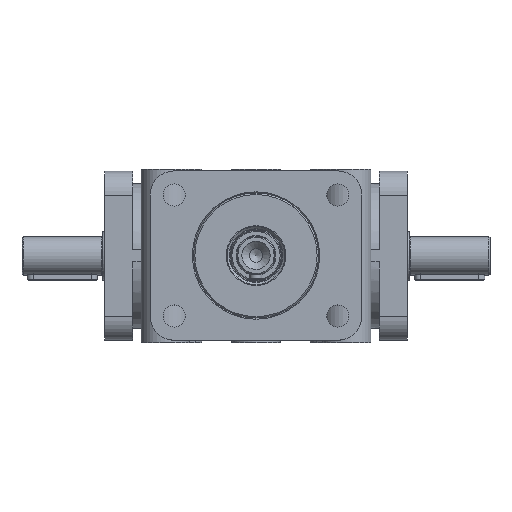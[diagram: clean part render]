
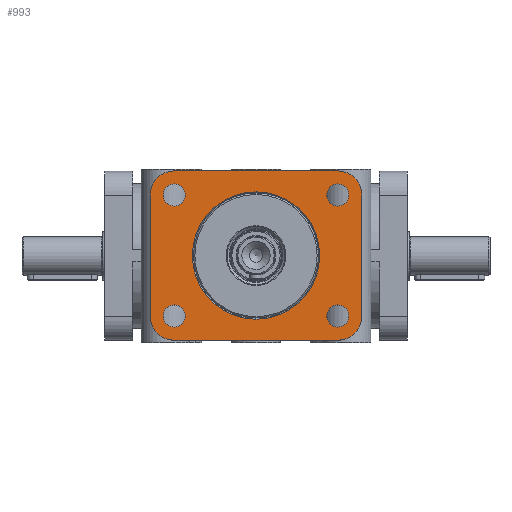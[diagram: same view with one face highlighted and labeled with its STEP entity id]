
A CAD part, top view. The second image highlights one B-rep face of the part: STEP entity #993.
In plain terms, the highlighted planar face has unit normal (0, 0, 1).
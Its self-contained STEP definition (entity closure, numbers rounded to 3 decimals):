
#750=CARTESIAN_POINT('',(46.0,30.0,0.0));
#751=VERTEX_POINT('',#750);
#752=CARTESIAN_POINT('',(40.5,30.0,0.0));
#753=DIRECTION('',(0.0,0.0,-1.0));
#754=DIRECTION('',(1.0,0.0,0.0));
#755=AXIS2_PLACEMENT_3D('',#752,#753,#754);
#756=CIRCLE('',#755,5.5);
#757=EDGE_CURVE('',#751,#751,#756,.T.);
#778=CARTESIAN_POINT('',(46.,-30.,0.0));
#779=VERTEX_POINT('',#778);
#780=CARTESIAN_POINT('',(40.5,-30.,0.0));
#781=DIRECTION('',(0.0,0.0,-1.0));
#782=DIRECTION('',(1.0,0.0,0.0));
#783=AXIS2_PLACEMENT_3D('',#780,#781,#782);
#784=CIRCLE('',#783,5.5);
#785=EDGE_CURVE('',#779,#779,#784,.T.);
#806=CARTESIAN_POINT('',(-35.0,-30.,0.0));
#807=VERTEX_POINT('',#806);
#808=CARTESIAN_POINT('',(-40.5,-30.,0.0));
#809=DIRECTION('',(0.0,0.0,-1.0));
#810=DIRECTION('',(1.0,0.0,0.0));
#811=AXIS2_PLACEMENT_3D('',#808,#809,#810);
#812=CIRCLE('',#811,5.5);
#813=EDGE_CURVE('',#807,#807,#812,.T.);
#834=CARTESIAN_POINT('',(-35.0,30.0,0.0));
#835=VERTEX_POINT('',#834);
#836=CARTESIAN_POINT('',(-40.5,30.0,0.0));
#837=DIRECTION('',(0.0,0.0,-1.0));
#838=DIRECTION('',(1.0,0.0,0.0));
#839=AXIS2_PLACEMENT_3D('',#836,#837,#838);
#840=CIRCLE('',#839,5.5);
#841=EDGE_CURVE('',#835,#835,#840,.T.);
#862=CARTESIAN_POINT('',(31.577,0.,0.0));
#863=VERTEX_POINT('',#862);
#864=CARTESIAN_POINT('',(0.0,0.0,0.0));
#865=DIRECTION('',(0.0,0.0,1.0));
#866=DIRECTION('',(-1.0,0.0,0.0));
#867=AXIS2_PLACEMENT_3D('',#864,#865,#866);
#868=CIRCLE('',#867,31.577);
#869=EDGE_CURVE('',#863,#863,#868,.T.);
#903=CARTESIAN_POINT('',(0.0,0.0,0.0));
#904=DIRECTION('',(0.0,0.0,1.0));
#905=DIRECTION('',(1.0,0.0,0.0));
#906=AXIS2_PLACEMENT_3D('',#903,#904,#905);
#907=PLANE('',#906);
#908=CARTESIAN_POINT('',(-52.5,30.0,0.0));
#909=VERTEX_POINT('',#908);
#910=CARTESIAN_POINT('',(-40.5,42.,0.0));
#911=VERTEX_POINT('',#910);
#912=CARTESIAN_POINT('',(-40.5,30.0,0.0));
#913=DIRECTION('',(0.0,0.0,-1.0));
#914=DIRECTION('',(-0.707,0.707,0.0));
#915=AXIS2_PLACEMENT_3D('',#912,#913,#914);
#916=CIRCLE('',#915,12.);
#917=EDGE_CURVE('',#909,#911,#916,.T.);
#918=ORIENTED_EDGE('',*,*,#917,.F.);
#919=CARTESIAN_POINT('',(-52.5,-30.,0.0));
#920=VERTEX_POINT('',#919);
#921=CARTESIAN_POINT('',(-52.5,-30.,0.0));
#922=DIRECTION('',(0.0,1.0,0.0));
#923=VECTOR('',#922,60.);
#924=LINE('',#921,#923);
#925=EDGE_CURVE('',#920,#909,#924,.T.);
#926=ORIENTED_EDGE('',*,*,#925,.F.);
#927=CARTESIAN_POINT('',(-40.5,-42.,0.0));
#928=VERTEX_POINT('',#927);
#929=CARTESIAN_POINT('',(-40.5,-30.,0.0));
#930=DIRECTION('',(0.0,0.0,-1.0));
#931=DIRECTION('',(-0.707,-0.707,0.0));
#932=AXIS2_PLACEMENT_3D('',#929,#930,#931);
#933=CIRCLE('',#932,12.);
#934=EDGE_CURVE('',#928,#920,#933,.T.);
#935=ORIENTED_EDGE('',*,*,#934,.F.);
#936=CARTESIAN_POINT('',(40.5,-42.,0.0));
#937=VERTEX_POINT('',#936);
#938=CARTESIAN_POINT('',(40.5,-42.,0.0));
#939=DIRECTION('',(-1.0,0.0,0.0));
#940=VECTOR('',#939,81.0);
#941=LINE('',#938,#940);
#942=EDGE_CURVE('',#937,#928,#941,.T.);
#943=ORIENTED_EDGE('',*,*,#942,.F.);
#944=CARTESIAN_POINT('',(52.5,-30.,0.0));
#945=VERTEX_POINT('',#944);
#946=CARTESIAN_POINT('',(40.5,-30.,0.0));
#947=DIRECTION('',(0.0,0.0,-1.0));
#948=DIRECTION('',(0.707,-0.707,0.0));
#949=AXIS2_PLACEMENT_3D('',#946,#947,#948);
#950=CIRCLE('',#949,12.0);
#951=EDGE_CURVE('',#945,#937,#950,.T.);
#952=ORIENTED_EDGE('',*,*,#951,.F.);
#953=CARTESIAN_POINT('',(52.5,30.0,0.0));
#954=VERTEX_POINT('',#953);
#955=CARTESIAN_POINT('',(52.5,30.,0.0));
#956=DIRECTION('',(0.0,-1.0,0.0));
#957=VECTOR('',#956,60.0);
#958=LINE('',#955,#957);
#959=EDGE_CURVE('',#954,#945,#958,.T.);
#960=ORIENTED_EDGE('',*,*,#959,.F.);
#961=CARTESIAN_POINT('',(40.5,42.,0.0));
#962=VERTEX_POINT('',#961);
#963=CARTESIAN_POINT('',(40.5,30.0,0.0));
#964=DIRECTION('',(0.0,0.0,-1.0));
#965=DIRECTION('',(0.707,0.707,0.0));
#966=AXIS2_PLACEMENT_3D('',#963,#964,#965);
#967=CIRCLE('',#966,12.);
#968=EDGE_CURVE('',#962,#954,#967,.T.);
#969=ORIENTED_EDGE('',*,*,#968,.F.);
#970=CARTESIAN_POINT('',(-40.5,42.,0.0));
#971=DIRECTION('',(1.0,0.0,0.0));
#972=VECTOR('',#971,81.0);
#973=LINE('',#970,#972);
#974=EDGE_CURVE('',#911,#962,#973,.T.);
#975=ORIENTED_EDGE('',*,*,#974,.F.);
#976=EDGE_LOOP('',(#918,#926,#935,#943,#952,#960,#969,#975));
#977=FACE_OUTER_BOUND('',#976,.T.);
#978=ORIENTED_EDGE('',*,*,#757,.T.);
#979=EDGE_LOOP('',(#978));
#980=FACE_BOUND('',#979,.T.);
#981=ORIENTED_EDGE('',*,*,#785,.T.);
#982=EDGE_LOOP('',(#981));
#983=FACE_BOUND('',#982,.T.);
#984=ORIENTED_EDGE('',*,*,#813,.T.);
#985=EDGE_LOOP('',(#984));
#986=FACE_BOUND('',#985,.T.);
#987=ORIENTED_EDGE('',*,*,#841,.T.);
#988=EDGE_LOOP('',(#987));
#989=FACE_BOUND('',#988,.T.);
#990=ORIENTED_EDGE('',*,*,#869,.F.);
#991=EDGE_LOOP('',(#990));
#992=FACE_BOUND('',#991,.T.);
#993=ADVANCED_FACE('',(#977,#980,#983,#986,#989,#992),#907,.T.);
